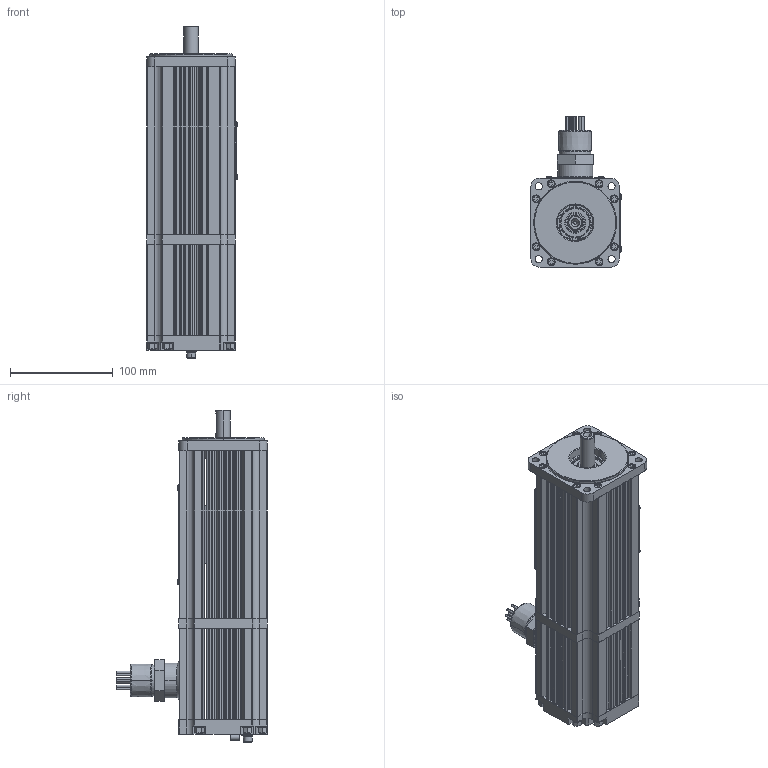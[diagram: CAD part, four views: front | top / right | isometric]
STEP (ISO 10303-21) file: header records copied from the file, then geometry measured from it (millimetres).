
FILE_DESCRIPTION (( 'STEP AP203' ), '1' );
FILE_NAME ('M431-NNN0-8T08.STEP', '2009-03-13T20:35:55', ( 'New3' ), ( 'Elwood Corp.' ), 'SwSTEP 2.0', 'SolidWorks 2009', '' );
FILE_SCHEMA (( 'CONFIG_CONTROL_DESIGN' ));
Length unit declared in the file: inch
Products named in the file (1): M431-NNN0-8T08
Bounding box: 87.61 x 146.61 x 322.4 mm (x, y, z)
Surface area: 171592.9 mm2 (no closed solid volume)
Topology: 0 solids, 80 shells, 1230 faces, 4771 edges, 3555 vertices
Faces by surface type: plane 692, cylinder 399, cone 71, bspline 52, torus 16
Entity records: 57530 total; most frequent: CARTESIAN_POINT 18680, DIRECTION 7777, ORIENTED_EDGE 6943, EDGE_CURVE 4771, VERTEX_POINT 3555, VECTOR 3205, LINE 3205, AXIS2_PLACEMENT_3D 2286
